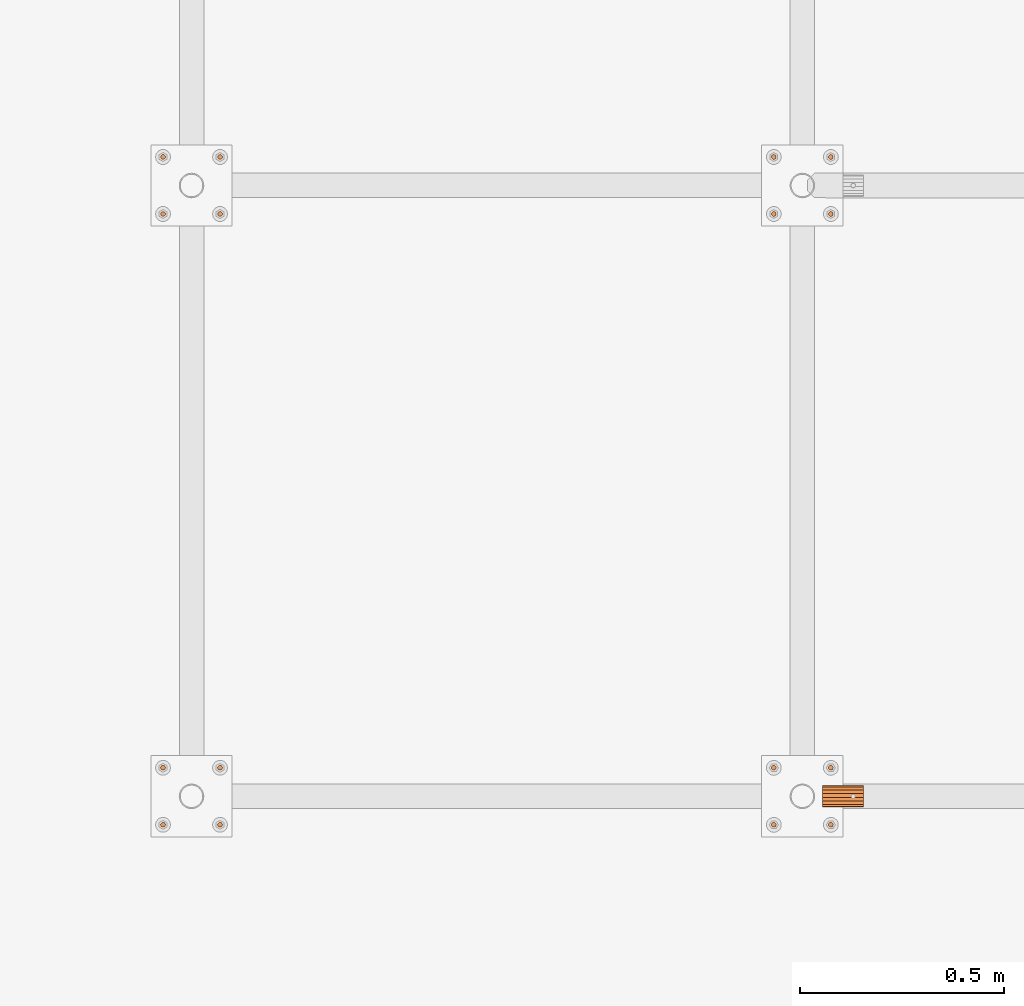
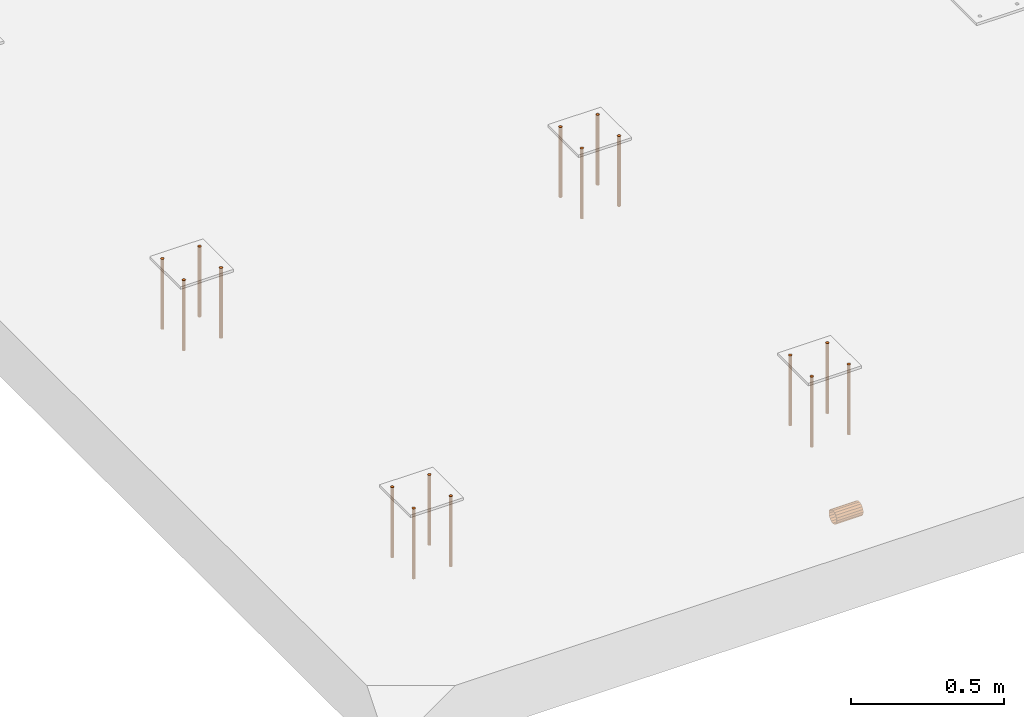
# One storey, part 13 of 30: 17 proxies.
"""IFC2X3 building model written with IfcOpenShell, lengths in millimetres."""

from ifc_helpers import new_model, entity, si_unit, converted_unit, origin_with_axes, place, context, project, spatial, faceted_brep, material, element, save


model = new_model("IFC2X3")

# Units and contexts
model_context = context("Model", 3, precision=1e-09, world=origin_with_axes())
ifc_project = project(units=[si_unit("LENGTHUNIT", "METRE", prefix="MILLI"), si_unit("AREAUNIT", "SQUARE_METRE"), si_unit("VOLUMEUNIT", "CUBIC_METRE"), converted_unit("PLANEANGLEUNIT", "DEGREE", entity("IfcPlaneAngleMeasure", 0.01745329), si_unit("PLANEANGLEUNIT", "RADIAN"), dimensions=[0, 0, 0, 0, 0, 0, 0])], contexts=[model_context])

# Site, building, storey
site_placement = place(None, origin_with_axes())
site = spatial("IfcSite", under=ifc_project, at=site_placement, Name="M?nsinger Stra?e, 81477 M?nchen", CompositionType="ELEMENT")
building_placement = place(site_placement, origin_with_axes())
building = spatial("IfcBuilding", under=site, at=building_placement, Name="Struktur 1", CompositionType="ELEMENT")
storey_placement = place(building_placement, origin_with_axes())
storey = spatial("IfcBuildingStorey", under=building, at=storey_placement, Name="Default Storey", CompositionType="ELEMENT", Elevation=0.0)

# Proxies
ifc_material_1 = material(Name="Kein")
proxy_1_placement = place(None, origin_with_axes())
element("IfcBuildingElementProxy", 1, at=proxy_1_placement, inside=storey, material=ifc_material_1, ObjectType="-", context=model_context, shape_type="Brep", body=[
    faceted_brep([(1476.315117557, 3055.2632594, 6475.0), (1476.315117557, 3055.2632594, 6755.0), (1473.315117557, 3056.067106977, 6755.0), (1473.315117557, 3056.067106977, 6475.0), (1479.315117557, 3056.067106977, 6475.0), (1479.315117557, 3056.067106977, 6755.0), (1479.315117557, 3066.459411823, 6475.0), (1481.51126998, 3064.2632594, 6475.0), (1482.315117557, 3061.2632594, 6475.0), (1481.51126998, 3058.2632594, 6475.0), (1471.118965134, 3058.2632594, 6475.0), (1470.315117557, 3061.2632594, 6475.0), (1471.118965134, 3064.2632594, 6475.0), (1473.315117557, 3066.459411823, 6475.0), (1476.315117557, 3067.2632594, 6475.0), (1473.315117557, 3066.459411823, 6755.0), (1471.118965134, 3064.2632594, 6755.0), (1470.315117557, 3061.2632594, 6755.0), (1471.118965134, 3058.2632594, 6755.0), (1481.51126998, 3058.2632594, 6755.0), (1482.315117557, 3061.2632594, 6755.0), (1481.51126998, 3064.2632594, 6755.0), (1479.315117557, 3066.459411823, 6755.0), (1476.315117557, 3067.2632594, 6755.0)], [[[0, 1, 2, 3]], [[1, 0, 4, 5]], [[6, 7, 8, 9, 4, 0, 3, 10, 11, 12, 13, 14]], [[15, 16, 17, 18, 2, 1, 5, 19, 20, 21, 22, 23]], [[3, 2, 18, 10]], [[5, 4, 9, 19]], [[17, 11, 10, 18]], [[16, 12, 11, 17]], [[19, 9, 8, 20]], [[13, 15, 23, 14]], [[12, 16, 15, 13]], [[14, 23, 22, 6]], [[20, 8, 7, 21]], [[6, 22, 21, 7]]]),
])
proxy_2_placement = place(None, origin_with_axes())
element("IfcBuildingElementProxy", 2, at=proxy_2_placement, inside=storey, material=ifc_material_1, ObjectType="-", context=model_context, shape_type="Brep", body=[
    faceted_brep([(1336.315117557, 3055.2632594, 6475.0), (1336.315117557, 3055.2632594, 6755.0), (1333.315117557, 3056.067106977, 6755.0), (1333.315117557, 3056.067106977, 6475.0), (1339.315117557, 3056.067106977, 6475.0), (1339.315117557, 3056.067106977, 6755.0), (1339.315117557, 3066.459411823, 6475.0), (1341.51126998, 3064.2632594, 6475.0), (1342.315117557, 3061.2632594, 6475.0), (1341.51126998, 3058.2632594, 6475.0), (1331.118965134, 3058.2632594, 6475.0), (1330.315117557, 3061.2632594, 6475.0), (1331.118965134, 3064.2632594, 6475.0), (1333.315117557, 3066.459411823, 6475.0), (1336.315117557, 3067.2632594, 6475.0), (1333.315117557, 3066.459411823, 6755.0), (1331.118965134, 3064.2632594, 6755.0), (1330.315117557, 3061.2632594, 6755.0), (1331.118965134, 3058.2632594, 6755.0), (1341.51126998, 3058.2632594, 6755.0), (1342.315117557, 3061.2632594, 6755.0), (1341.51126998, 3064.2632594, 6755.0), (1339.315117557, 3066.459411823, 6755.0), (1336.315117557, 3067.2632594, 6755.0)], [[[0, 1, 2, 3]], [[1, 0, 4, 5]], [[6, 7, 8, 9, 4, 0, 3, 10, 11, 12, 13, 14]], [[15, 16, 17, 18, 2, 1, 5, 19, 20, 21, 22, 23]], [[3, 2, 18, 10]], [[5, 4, 9, 19]], [[17, 11, 10, 18]], [[16, 12, 11, 17]], [[19, 9, 8, 20]], [[13, 15, 23, 14]], [[12, 16, 15, 13]], [[14, 23, 22, 6]], [[20, 8, 7, 21]], [[6, 22, 21, 7]]]),
])
proxy_3_placement = place(None, origin_with_axes())
element("IfcBuildingElementProxy", 3, at=proxy_3_placement, inside=storey, material=ifc_material_1, ObjectType="-", context=model_context, shape_type="Brep", body=[
    faceted_brep([(1476.315117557, 2915.2632594, 6475.0), (1476.315117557, 2915.2632594, 6755.0), (1473.315117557, 2916.067106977, 6755.0), (1473.315117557, 2916.067106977, 6475.0), (1479.315117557, 2916.067106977, 6475.0), (1479.315117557, 2916.067106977, 6755.0), (1479.315117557, 2926.459411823, 6475.0), (1481.51126998, 2924.2632594, 6475.0), (1482.315117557, 2921.2632594, 6475.0), (1481.51126998, 2918.2632594, 6475.0), (1471.118965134, 2918.2632594, 6475.0), (1470.315117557, 2921.2632594, 6475.0), (1471.118965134, 2924.2632594, 6475.0), (1473.315117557, 2926.459411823, 6475.0), (1476.315117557, 2927.2632594, 6475.0), (1473.315117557, 2926.459411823, 6755.0), (1471.118965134, 2924.2632594, 6755.0), (1470.315117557, 2921.2632594, 6755.0), (1471.118965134, 2918.2632594, 6755.0), (1481.51126998, 2918.2632594, 6755.0), (1482.315117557, 2921.2632594, 6755.0), (1481.51126998, 2924.2632594, 6755.0), (1479.315117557, 2926.459411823, 6755.0), (1476.315117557, 2927.2632594, 6755.0)], [[[0, 1, 2, 3]], [[1, 0, 4, 5]], [[6, 7, 8, 9, 4, 0, 3, 10, 11, 12, 13, 14]], [[15, 16, 17, 18, 2, 1, 5, 19, 20, 21, 22, 23]], [[3, 2, 18, 10]], [[5, 4, 9, 19]], [[17, 11, 10, 18]], [[16, 12, 11, 17]], [[19, 9, 8, 20]], [[13, 15, 23, 14]], [[12, 16, 15, 13]], [[14, 23, 22, 6]], [[20, 8, 7, 21]], [[6, 22, 21, 7]]]),
])
proxy_4_placement = place(None, origin_with_axes())
element("IfcBuildingElementProxy", 4, at=proxy_4_placement, inside=storey, material=ifc_material_1, ObjectType="-", context=model_context, shape_type="Brep", body=[
    faceted_brep([(1336.315117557, 2915.2632594, 6475.0), (1336.315117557, 2915.2632594, 6755.0), (1333.315117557, 2916.067106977, 6755.0), (1333.315117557, 2916.067106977, 6475.0), (1339.315117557, 2916.067106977, 6475.0), (1339.315117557, 2916.067106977, 6755.0), (1339.315117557, 2926.459411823, 6475.0), (1341.51126998, 2924.2632594, 6475.0), (1342.315117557, 2921.2632594, 6475.0), (1341.51126998, 2918.2632594, 6475.0), (1331.118965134, 2918.2632594, 6475.0), (1330.315117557, 2921.2632594, 6475.0), (1331.118965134, 2924.2632594, 6475.0), (1333.315117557, 2926.459411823, 6475.0), (1336.315117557, 2927.2632594, 6475.0), (1333.315117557, 2926.459411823, 6755.0), (1331.118965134, 2924.2632594, 6755.0), (1330.315117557, 2921.2632594, 6755.0), (1331.118965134, 2918.2632594, 6755.0), (1341.51126998, 2918.2632594, 6755.0), (1342.315117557, 2921.2632594, 6755.0), (1341.51126998, 2924.2632594, 6755.0), (1339.315117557, 2926.459411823, 6755.0), (1336.315117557, 2927.2632594, 6755.0)], [[[0, 1, 2, 3]], [[1, 0, 4, 5]], [[6, 7, 8, 9, 4, 0, 3, 10, 11, 12, 13, 14]], [[15, 16, 17, 18, 2, 1, 5, 19, 20, 21, 22, 23]], [[3, 2, 18, 10]], [[5, 4, 9, 19]], [[17, 11, 10, 18]], [[16, 12, 11, 17]], [[19, 9, 8, 20]], [[13, 15, 23, 14]], [[12, 16, 15, 13]], [[14, 23, 22, 6]], [[20, 8, 7, 21]], [[6, 22, 21, 7]]]),
])
proxy_5_placement = place(None, origin_with_axes())
element("IfcBuildingElementProxy", 5, at=proxy_5_placement, inside=storey, material=ifc_material_1, ObjectType="-", context=model_context, shape_type="Brep", body=[
    faceted_brep([(2976.315117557, 2915.2632594, 6755.0), (2976.315117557, 2915.2632594, 6475.0), (2979.315117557, 2916.067106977, 6475.0), (2979.315117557, 2916.067106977, 6755.0), (2973.315117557, 2916.067106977, 6755.0), (2973.315117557, 2916.067106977, 6475.0), (2971.118965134, 2924.2632594, 6475.0), (2973.315117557, 2926.459411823, 6475.0), (2976.315117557, 2927.2632594, 6475.0), (2979.315117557, 2926.459411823, 6475.0), (2981.51126998, 2924.2632594, 6475.0), (2982.315117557, 2921.2632594, 6475.0), (2981.51126998, 2918.2632594, 6475.0), (2971.118965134, 2918.2632594, 6475.0), (2970.315117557, 2921.2632594, 6475.0), (2981.51126998, 2924.2632594, 6755.0), (2979.315117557, 2926.459411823, 6755.0), (2976.315117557, 2927.2632594, 6755.0), (2973.315117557, 2926.459411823, 6755.0), (2971.118965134, 2924.2632594, 6755.0), (2970.315117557, 2921.2632594, 6755.0), (2971.118965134, 2918.2632594, 6755.0), (2981.51126998, 2918.2632594, 6755.0), (2982.315117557, 2921.2632594, 6755.0)], [[[0, 1, 2, 3]], [[1, 0, 4, 5]], [[6, 7, 8, 9, 10, 11, 12, 2, 1, 5, 13, 14]], [[15, 16, 17, 18, 19, 20, 21, 4, 0, 3, 22, 23]], [[3, 2, 12, 22]], [[5, 4, 21, 13]], [[11, 23, 22, 12]], [[10, 15, 23, 11]], [[13, 21, 20, 14]], [[16, 9, 8, 17]], [[15, 10, 9, 16]], [[17, 8, 7, 18]], [[14, 20, 19, 6]], [[18, 7, 6, 19]]]),
])
proxy_6_placement = place(None, origin_with_axes())
element("IfcBuildingElementProxy", 6, at=proxy_6_placement, inside=storey, material=ifc_material_1, ObjectType="-", context=model_context, shape_type="Brep", body=[
    faceted_brep([(2836.315117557, 2915.2632594, 6755.0), (2836.315117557, 2915.2632594, 6475.0), (2839.315117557, 2916.067106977, 6475.0), (2839.315117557, 2916.067106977, 6755.0), (2833.315117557, 2916.067106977, 6755.0), (2833.315117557, 2916.067106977, 6475.0), (2831.118965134, 2924.2632594, 6475.0), (2833.315117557, 2926.459411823, 6475.0), (2836.315117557, 2927.2632594, 6475.0), (2839.315117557, 2926.459411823, 6475.0), (2841.51126998, 2924.2632594, 6475.0), (2842.315117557, 2921.2632594, 6475.0), (2841.51126998, 2918.2632594, 6475.0), (2831.118965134, 2918.2632594, 6475.0), (2830.315117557, 2921.2632594, 6475.0), (2841.51126998, 2924.2632594, 6755.0), (2839.315117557, 2926.459411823, 6755.0), (2836.315117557, 2927.2632594, 6755.0), (2833.315117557, 2926.459411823, 6755.0), (2831.118965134, 2924.2632594, 6755.0), (2830.315117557, 2921.2632594, 6755.0), (2831.118965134, 2918.2632594, 6755.0), (2841.51126998, 2918.2632594, 6755.0), (2842.315117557, 2921.2632594, 6755.0)], [[[0, 1, 2, 3]], [[1, 0, 4, 5]], [[6, 7, 8, 9, 10, 11, 12, 2, 1, 5, 13, 14]], [[15, 16, 17, 18, 19, 20, 21, 4, 0, 3, 22, 23]], [[3, 2, 12, 22]], [[5, 4, 21, 13]], [[11, 23, 22, 12]], [[10, 15, 23, 11]], [[13, 21, 20, 14]], [[16, 9, 8, 17]], [[15, 10, 9, 16]], [[17, 8, 7, 18]], [[14, 20, 19, 6]], [[18, 7, 6, 19]]]),
])
proxy_7_placement = place(None, origin_with_axes())
element("IfcBuildingElementProxy", 7, at=proxy_7_placement, inside=storey, material=ifc_material_1, ObjectType="-", context=model_context, shape_type="Brep", body=[
    faceted_brep([(2976.315117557, 3055.2632594, 6755.0), (2976.315117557, 3055.2632594, 6475.0), (2979.315117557, 3056.067106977, 6475.0), (2979.315117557, 3056.067106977, 6755.0), (2973.315117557, 3056.067106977, 6755.0), (2973.315117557, 3056.067106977, 6475.0), (2971.118965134, 3064.2632594, 6475.0), (2973.315117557, 3066.459411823, 6475.0), (2976.315117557, 3067.2632594, 6475.0), (2979.315117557, 3066.459411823, 6475.0), (2981.51126998, 3064.2632594, 6475.0), (2982.315117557, 3061.2632594, 6475.0), (2981.51126998, 3058.2632594, 6475.0), (2971.118965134, 3058.2632594, 6475.0), (2970.315117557, 3061.2632594, 6475.0), (2981.51126998, 3064.2632594, 6755.0), (2979.315117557, 3066.459411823, 6755.0), (2976.315117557, 3067.2632594, 6755.0), (2973.315117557, 3066.459411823, 6755.0), (2971.118965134, 3064.2632594, 6755.0), (2970.315117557, 3061.2632594, 6755.0), (2971.118965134, 3058.2632594, 6755.0), (2981.51126998, 3058.2632594, 6755.0), (2982.315117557, 3061.2632594, 6755.0)], [[[0, 1, 2, 3]], [[1, 0, 4, 5]], [[6, 7, 8, 9, 10, 11, 12, 2, 1, 5, 13, 14]], [[15, 16, 17, 18, 19, 20, 21, 4, 0, 3, 22, 23]], [[3, 2, 12, 22]], [[5, 4, 21, 13]], [[11, 23, 22, 12]], [[10, 15, 23, 11]], [[13, 21, 20, 14]], [[16, 9, 8, 17]], [[15, 10, 9, 16]], [[17, 8, 7, 18]], [[14, 20, 19, 6]], [[18, 7, 6, 19]]]),
])
proxy_8_placement = place(None, origin_with_axes())
element("IfcBuildingElementProxy", 8, at=proxy_8_placement, inside=storey, material=ifc_material_1, ObjectType="-", context=model_context, shape_type="Brep", body=[
    faceted_brep([(2836.315117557, 3055.2632594, 6755.0), (2836.315117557, 3055.2632594, 6475.0), (2839.315117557, 3056.067106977, 6475.0), (2839.315117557, 3056.067106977, 6755.0), (2833.315117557, 3056.067106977, 6755.0), (2833.315117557, 3056.067106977, 6475.0), (2831.118965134, 3064.2632594, 6475.0), (2833.315117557, 3066.459411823, 6475.0), (2836.315117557, 3067.2632594, 6475.0), (2839.315117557, 3066.459411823, 6475.0), (2841.51126998, 3064.2632594, 6475.0), (2842.315117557, 3061.2632594, 6475.0), (2841.51126998, 3058.2632594, 6475.0), (2831.118965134, 3058.2632594, 6475.0), (2830.315117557, 3061.2632594, 6475.0), (2841.51126998, 3064.2632594, 6755.0), (2839.315117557, 3066.459411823, 6755.0), (2836.315117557, 3067.2632594, 6755.0), (2833.315117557, 3066.459411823, 6755.0), (2831.118965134, 3064.2632594, 6755.0), (2830.315117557, 3061.2632594, 6755.0), (2831.118965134, 3058.2632594, 6755.0), (2841.51126998, 3058.2632594, 6755.0), (2842.315117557, 3061.2632594, 6755.0)], [[[0, 1, 2, 3]], [[1, 0, 4, 5]], [[6, 7, 8, 9, 10, 11, 12, 2, 1, 5, 13, 14]], [[15, 16, 17, 18, 19, 20, 21, 4, 0, 3, 22, 23]], [[3, 2, 12, 22]], [[5, 4, 21, 13]], [[11, 23, 22, 12]], [[10, 15, 23, 11]], [[13, 21, 20, 14]], [[16, 9, 8, 17]], [[15, 10, 9, 16]], [[17, 8, 7, 18]], [[14, 20, 19, 6]], [[18, 7, 6, 19]]]),
])
proxy_9_placement = place(None, origin_with_axes())
element("IfcBuildingElementProxy", 9, at=proxy_9_placement, inside=storey, material=ifc_material_1, ObjectType="-", context=model_context, shape_type="Brep", body=[
    faceted_brep([(1336.315117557, 1427.2632594, 6755.0), (1336.315117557, 1427.2632594, 6475.0), (1333.315117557, 1426.459411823, 6475.0), (1333.315117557, 1426.459411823, 6755.0), (1339.315117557, 1426.459411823, 6755.0), (1339.315117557, 1426.459411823, 6475.0), (1341.51126998, 1418.2632594, 6475.0), (1339.315117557, 1416.067106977, 6475.0), (1336.315117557, 1415.2632594, 6475.0), (1333.315117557, 1416.067106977, 6475.0), (1331.118965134, 1418.2632594, 6475.0), (1330.315117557, 1421.2632594, 6475.0), (1331.118965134, 1424.2632594, 6475.0), (1341.51126998, 1424.2632594, 6475.0), (1342.315117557, 1421.2632594, 6475.0), (1331.118965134, 1418.2632594, 6755.0), (1333.315117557, 1416.067106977, 6755.0), (1336.315117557, 1415.2632594, 6755.0), (1339.315117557, 1416.067106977, 6755.0), (1341.51126998, 1418.2632594, 6755.0), (1342.315117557, 1421.2632594, 6755.0), (1341.51126998, 1424.2632594, 6755.0), (1331.118965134, 1424.2632594, 6755.0), (1330.315117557, 1421.2632594, 6755.0)], [[[0, 1, 2, 3]], [[1, 0, 4, 5]], [[6, 7, 8, 9, 10, 11, 12, 2, 1, 5, 13, 14]], [[15, 16, 17, 18, 19, 20, 21, 4, 0, 3, 22, 23]], [[3, 2, 12, 22]], [[5, 4, 21, 13]], [[11, 23, 22, 12]], [[10, 15, 23, 11]], [[13, 21, 20, 14]], [[16, 9, 8, 17]], [[15, 10, 9, 16]], [[17, 8, 7, 18]], [[14, 20, 19, 6]], [[18, 7, 6, 19]]]),
])
proxy_10_placement = place(None, origin_with_axes())
element("IfcBuildingElementProxy", 10, at=proxy_10_placement, inside=storey, material=ifc_material_1, ObjectType="-", context=model_context, shape_type="Brep", body=[
    faceted_brep([(1476.315117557, 1427.2632594, 6755.0), (1476.315117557, 1427.2632594, 6475.0), (1473.315117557, 1426.459411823, 6475.0), (1473.315117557, 1426.459411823, 6755.0), (1479.315117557, 1426.459411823, 6755.0), (1479.315117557, 1426.459411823, 6475.0), (1481.51126998, 1418.2632594, 6475.0), (1479.315117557, 1416.067106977, 6475.0), (1476.315117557, 1415.2632594, 6475.0), (1473.315117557, 1416.067106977, 6475.0), (1471.118965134, 1418.2632594, 6475.0), (1470.315117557, 1421.2632594, 6475.0), (1471.118965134, 1424.2632594, 6475.0), (1481.51126998, 1424.2632594, 6475.0), (1482.315117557, 1421.2632594, 6475.0), (1471.118965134, 1418.2632594, 6755.0), (1473.315117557, 1416.067106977, 6755.0), (1476.315117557, 1415.2632594, 6755.0), (1479.315117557, 1416.067106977, 6755.0), (1481.51126998, 1418.2632594, 6755.0), (1482.315117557, 1421.2632594, 6755.0), (1481.51126998, 1424.2632594, 6755.0), (1471.118965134, 1424.2632594, 6755.0), (1470.315117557, 1421.2632594, 6755.0)], [[[0, 1, 2, 3]], [[1, 0, 4, 5]], [[6, 7, 8, 9, 10, 11, 12, 2, 1, 5, 13, 14]], [[15, 16, 17, 18, 19, 20, 21, 4, 0, 3, 22, 23]], [[3, 2, 12, 22]], [[5, 4, 21, 13]], [[11, 23, 22, 12]], [[10, 15, 23, 11]], [[13, 21, 20, 14]], [[16, 9, 8, 17]], [[15, 10, 9, 16]], [[17, 8, 7, 18]], [[14, 20, 19, 6]], [[18, 7, 6, 19]]]),
])
proxy_11_placement = place(None, origin_with_axes())
element("IfcBuildingElementProxy", 11, at=proxy_11_placement, inside=storey, material=ifc_material_1, ObjectType="-", context=model_context, shape_type="Brep", body=[
    faceted_brep([(1336.315117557, 1567.2632594, 6755.0), (1336.315117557, 1567.2632594, 6475.0), (1333.315117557, 1566.459411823, 6475.0), (1333.315117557, 1566.459411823, 6755.0), (1339.315117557, 1566.459411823, 6755.0), (1339.315117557, 1566.459411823, 6475.0), (1341.51126998, 1558.2632594, 6475.0), (1339.315117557, 1556.067106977, 6475.0), (1336.315117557, 1555.2632594, 6475.0), (1333.315117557, 1556.067106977, 6475.0), (1331.118965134, 1558.2632594, 6475.0), (1330.315117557, 1561.2632594, 6475.0), (1331.118965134, 1564.2632594, 6475.0), (1341.51126998, 1564.2632594, 6475.0), (1342.315117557, 1561.2632594, 6475.0), (1331.118965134, 1558.2632594, 6755.0), (1333.315117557, 1556.067106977, 6755.0), (1336.315117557, 1555.2632594, 6755.0), (1339.315117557, 1556.067106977, 6755.0), (1341.51126998, 1558.2632594, 6755.0), (1342.315117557, 1561.2632594, 6755.0), (1341.51126998, 1564.2632594, 6755.0), (1331.118965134, 1564.2632594, 6755.0), (1330.315117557, 1561.2632594, 6755.0)], [[[0, 1, 2, 3]], [[1, 0, 4, 5]], [[6, 7, 8, 9, 10, 11, 12, 2, 1, 5, 13, 14]], [[15, 16, 17, 18, 19, 20, 21, 4, 0, 3, 22, 23]], [[3, 2, 12, 22]], [[5, 4, 21, 13]], [[11, 23, 22, 12]], [[10, 15, 23, 11]], [[13, 21, 20, 14]], [[16, 9, 8, 17]], [[15, 10, 9, 16]], [[17, 8, 7, 18]], [[14, 20, 19, 6]], [[18, 7, 6, 19]]]),
])
proxy_12_placement = place(None, origin_with_axes())
element("IfcBuildingElementProxy", 12, at=proxy_12_placement, inside=storey, material=ifc_material_1, ObjectType="-", context=model_context, shape_type="Brep", body=[
    faceted_brep([(1476.315117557, 1567.2632594, 6755.0), (1476.315117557, 1567.2632594, 6475.0), (1473.315117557, 1566.459411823, 6475.0), (1473.315117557, 1566.459411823, 6755.0), (1479.315117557, 1566.459411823, 6755.0), (1479.315117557, 1566.459411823, 6475.0), (1481.51126998, 1558.2632594, 6475.0), (1479.315117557, 1556.067106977, 6475.0), (1476.315117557, 1555.2632594, 6475.0), (1473.315117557, 1556.067106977, 6475.0), (1471.118965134, 1558.2632594, 6475.0), (1470.315117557, 1561.2632594, 6475.0), (1471.118965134, 1564.2632594, 6475.0), (1481.51126998, 1564.2632594, 6475.0), (1482.315117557, 1561.2632594, 6475.0), (1471.118965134, 1558.2632594, 6755.0), (1473.315117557, 1556.067106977, 6755.0), (1476.315117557, 1555.2632594, 6755.0), (1479.315117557, 1556.067106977, 6755.0), (1481.51126998, 1558.2632594, 6755.0), (1482.315117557, 1561.2632594, 6755.0), (1481.51126998, 1564.2632594, 6755.0), (1471.118965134, 1564.2632594, 6755.0), (1470.315117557, 1561.2632594, 6755.0)], [[[0, 1, 2, 3]], [[1, 0, 4, 5]], [[6, 7, 8, 9, 10, 11, 12, 2, 1, 5, 13, 14]], [[15, 16, 17, 18, 19, 20, 21, 4, 0, 3, 22, 23]], [[3, 2, 12, 22]], [[5, 4, 21, 13]], [[11, 23, 22, 12]], [[10, 15, 23, 11]], [[13, 21, 20, 14]], [[16, 9, 8, 17]], [[15, 10, 9, 16]], [[17, 8, 7, 18]], [[14, 20, 19, 6]], [[18, 7, 6, 19]]]),
])
proxy_13_placement = place(None, origin_with_axes())
element("IfcBuildingElementProxy", 13, at=proxy_13_placement, inside=storey, material=ifc_material_1, ObjectType="-", context=model_context, shape_type="Brep", body=[
    faceted_brep([(2842.315117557, 1421.2632594, 6475.0), (2842.315117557, 1421.2632594, 6755.0), (2841.51126998, 1418.2632594, 6755.0), (2841.51126998, 1418.2632594, 6475.0), (2841.51126998, 1424.2632594, 6475.0), (2841.51126998, 1424.2632594, 6755.0), (2831.118965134, 1424.2632594, 6475.0), (2833.315117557, 1426.459411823, 6475.0), (2836.315117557, 1427.2632594, 6475.0), (2839.315117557, 1426.459411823, 6475.0), (2839.315117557, 1416.067106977, 6475.0), (2836.315117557, 1415.2632594, 6475.0), (2833.315117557, 1416.067106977, 6475.0), (2831.118965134, 1418.2632594, 6475.0), (2830.315117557, 1421.2632594, 6475.0), (2831.118965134, 1418.2632594, 6755.0), (2833.315117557, 1416.067106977, 6755.0), (2836.315117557, 1415.2632594, 6755.0), (2839.315117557, 1416.067106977, 6755.0), (2839.315117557, 1426.459411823, 6755.0), (2836.315117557, 1427.2632594, 6755.0), (2833.315117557, 1426.459411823, 6755.0), (2831.118965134, 1424.2632594, 6755.0), (2830.315117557, 1421.2632594, 6755.0)], [[[0, 1, 2, 3]], [[1, 0, 4, 5]], [[6, 7, 8, 9, 4, 0, 3, 10, 11, 12, 13, 14]], [[15, 16, 17, 18, 2, 1, 5, 19, 20, 21, 22, 23]], [[3, 2, 18, 10]], [[5, 4, 9, 19]], [[17, 11, 10, 18]], [[16, 12, 11, 17]], [[19, 9, 8, 20]], [[13, 15, 23, 14]], [[12, 16, 15, 13]], [[14, 23, 22, 6]], [[20, 8, 7, 21]], [[6, 22, 21, 7]]]),
])
proxy_14_placement = place(None, origin_with_axes())
element("IfcBuildingElementProxy", 14, at=proxy_14_placement, inside=storey, material=ifc_material_1, ObjectType="-", context=model_context, shape_type="Brep", body=[
    faceted_brep([(2842.315117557, 1561.2632594, 6475.0), (2842.315117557, 1561.2632594, 6755.0), (2841.51126998, 1558.2632594, 6755.0), (2841.51126998, 1558.2632594, 6475.0), (2841.51126998, 1564.2632594, 6475.0), (2841.51126998, 1564.2632594, 6755.0), (2831.118965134, 1564.2632594, 6475.0), (2833.315117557, 1566.459411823, 6475.0), (2836.315117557, 1567.2632594, 6475.0), (2839.315117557, 1566.459411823, 6475.0), (2839.315117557, 1556.067106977, 6475.0), (2836.315117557, 1555.2632594, 6475.0), (2833.315117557, 1556.067106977, 6475.0), (2831.118965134, 1558.2632594, 6475.0), (2830.315117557, 1561.2632594, 6475.0), (2831.118965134, 1558.2632594, 6755.0), (2833.315117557, 1556.067106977, 6755.0), (2836.315117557, 1555.2632594, 6755.0), (2839.315117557, 1556.067106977, 6755.0), (2839.315117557, 1566.459411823, 6755.0), (2836.315117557, 1567.2632594, 6755.0), (2833.315117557, 1566.459411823, 6755.0), (2831.118965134, 1564.2632594, 6755.0), (2830.315117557, 1561.2632594, 6755.0)], [[[0, 1, 2, 3]], [[1, 0, 4, 5]], [[6, 7, 8, 9, 4, 0, 3, 10, 11, 12, 13, 14]], [[15, 16, 17, 18, 2, 1, 5, 19, 20, 21, 22, 23]], [[3, 2, 18, 10]], [[5, 4, 9, 19]], [[17, 11, 10, 18]], [[16, 12, 11, 17]], [[19, 9, 8, 20]], [[13, 15, 23, 14]], [[12, 16, 15, 13]], [[14, 23, 22, 6]], [[20, 8, 7, 21]], [[6, 22, 21, 7]]]),
])
proxy_15_placement = place(None, origin_with_axes())
element("IfcBuildingElementProxy", 15, at=proxy_15_placement, inside=storey, material=ifc_material_1, ObjectType="-", context=model_context, shape_type="Brep", body=[
    faceted_brep([(2982.315117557, 1421.2632594, 6475.0), (2982.315117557, 1421.2632594, 6755.0), (2981.51126998, 1418.2632594, 6755.0), (2981.51126998, 1418.2632594, 6475.0), (2981.51126998, 1424.2632594, 6475.0), (2981.51126998, 1424.2632594, 6755.0), (2971.118965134, 1424.2632594, 6475.0), (2973.315117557, 1426.459411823, 6475.0), (2976.315117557, 1427.2632594, 6475.0), (2979.315117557, 1426.459411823, 6475.0), (2979.315117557, 1416.067106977, 6475.0), (2976.315117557, 1415.2632594, 6475.0), (2973.315117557, 1416.067106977, 6475.0), (2971.118965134, 1418.2632594, 6475.0), (2970.315117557, 1421.2632594, 6475.0), (2971.118965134, 1418.2632594, 6755.0), (2973.315117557, 1416.067106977, 6755.0), (2976.315117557, 1415.2632594, 6755.0), (2979.315117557, 1416.067106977, 6755.0), (2979.315117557, 1426.459411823, 6755.0), (2976.315117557, 1427.2632594, 6755.0), (2973.315117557, 1426.459411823, 6755.0), (2971.118965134, 1424.2632594, 6755.0), (2970.315117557, 1421.2632594, 6755.0)], [[[0, 1, 2, 3]], [[1, 0, 4, 5]], [[6, 7, 8, 9, 4, 0, 3, 10, 11, 12, 13, 14]], [[15, 16, 17, 18, 2, 1, 5, 19, 20, 21, 22, 23]], [[3, 2, 18, 10]], [[5, 4, 9, 19]], [[17, 11, 10, 18]], [[16, 12, 11, 17]], [[19, 9, 8, 20]], [[13, 15, 23, 14]], [[12, 16, 15, 13]], [[14, 23, 22, 6]], [[20, 8, 7, 21]], [[6, 22, 21, 7]]]),
])
proxy_16_placement = place(None, origin_with_axes())
element("IfcBuildingElementProxy", 16, at=proxy_16_placement, inside=storey, material=ifc_material_1, ObjectType="-", context=model_context, shape_type="Brep", body=[
    faceted_brep([(2982.315117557, 1561.2632594, 6475.0), (2982.315117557, 1561.2632594, 6755.0), (2981.51126998, 1558.2632594, 6755.0), (2981.51126998, 1558.2632594, 6475.0), (2981.51126998, 1564.2632594, 6475.0), (2981.51126998, 1564.2632594, 6755.0), (2971.118965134, 1564.2632594, 6475.0), (2973.315117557, 1566.459411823, 6475.0), (2976.315117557, 1567.2632594, 6475.0), (2979.315117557, 1566.459411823, 6475.0), (2979.315117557, 1556.067106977, 6475.0), (2976.315117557, 1555.2632594, 6475.0), (2973.315117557, 1556.067106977, 6475.0), (2971.118965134, 1558.2632594, 6475.0), (2970.315117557, 1561.2632594, 6475.0), (2971.118965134, 1558.2632594, 6755.0), (2973.315117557, 1556.067106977, 6755.0), (2976.315117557, 1555.2632594, 6755.0), (2979.315117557, 1556.067106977, 6755.0), (2979.315117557, 1566.459411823, 6755.0), (2976.315117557, 1567.2632594, 6755.0), (2973.315117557, 1566.459411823, 6755.0), (2971.118965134, 1564.2632594, 6755.0), (2970.315117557, 1561.2632594, 6755.0)], [[[0, 1, 2, 3]], [[1, 0, 4, 5]], [[6, 7, 8, 9, 4, 0, 3, 10, 11, 12, 13, 14]], [[15, 16, 17, 18, 2, 1, 5, 19, 20, 21, 22, 23]], [[3, 2, 18, 10]], [[5, 4, 9, 19]], [[17, 11, 10, 18]], [[16, 12, 11, 17]], [[19, 9, 8, 20]], [[13, 15, 23, 14]], [[12, 16, 15, 13]], [[14, 23, 22, 6]], [[20, 8, 7, 21]], [[6, 22, 21, 7]]]),
])
ifc_material_2 = material(Name="S235JR")
proxy_17_placement = place(None, origin_with_axes())
element("IfcBuildingElementProxy", 17, at=proxy_17_placement, inside=storey, material=ifc_material_2, ObjectType="-", context=model_context, shape_type="Brep", body=[
    faceted_brep([(3056.315117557, 1514.006567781, 6095.917939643), (3056.315117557, 1517.557789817, 6105.084700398), (3056.315117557, 1517.557789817, 6114.915299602), (3056.315117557, 1514.006567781, 6124.082060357), (3056.315117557, 1507.383735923, 6131.34696083), (3056.315117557, 1498.583744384, 6135.728835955), (3056.315117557, 1488.795080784, 6136.635889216), (3056.315117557, 1479.339758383, 6133.945618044), (3056.315117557, 1471.494770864, 6128.021358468), (3056.315117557, 1466.319627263, 6119.663214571), (3056.315117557, 1464.5132594, 6110.0), (3056.315117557, 1466.319627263, 6100.336785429), (3056.315117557, 1471.494770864, 6091.978641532), (3056.315117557, 1479.339758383, 6086.054381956), (3056.315117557, 1488.795080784, 6083.364110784), (3056.315117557, 1498.583744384, 6084.271164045), (3056.315117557, 1507.383735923, 6088.65303917), (3056.315117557, 1516.2632594, 6110.0), (3056.315117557, 1514.360247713, 6100.432914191), (3056.315117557, 1508.94092893, 6092.32233047), (3056.315117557, 1500.830345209, 6086.903011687), (3056.315117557, 1491.2632594, 6085.0), (3056.315117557, 1481.696173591, 6086.903011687), (3056.315117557, 1473.58558987, 6092.32233047), (3056.315117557, 1468.166271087, 6100.432914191), (3056.315117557, 1466.2632594, 6110.0), (3056.315117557, 1468.166271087, 6119.567085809), (3056.315117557, 1473.58558987, 6127.67766953), (3056.315117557, 1481.696173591, 6133.096988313), (3056.315117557, 1491.2632594, 6135.0), (3056.315117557, 1500.830345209, 6133.096988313), (3056.315117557, 1508.94092893, 6127.67766953), (3056.315117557, 1514.360247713, 6119.567085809), (2956.315117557, 1516.2632594, 6110.0), (2956.315117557, 1514.360247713, 6119.567085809), (2956.315117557, 1517.557789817, 6105.084700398), (2956.315117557, 1517.557789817, 6114.915299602), (2956.315117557, 1514.360247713, 6100.432914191), (2956.315117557, 1514.006567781, 6095.917939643), (2956.315117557, 1507.383735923, 6088.65303917), (2956.315117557, 1498.583744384, 6084.271164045), (2956.315117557, 1488.795080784, 6083.364110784), (2956.315117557, 1479.339758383, 6086.054381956), (2956.315117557, 1471.494770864, 6091.978641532), (2956.315117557, 1466.319627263, 6100.336785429), (2956.315117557, 1464.5132594, 6110.0), (2956.315117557, 1466.319627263, 6119.663214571), (2956.315117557, 1471.494770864, 6128.021358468), (2956.315117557, 1479.339758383, 6133.945618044), (2956.315117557, 1488.795080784, 6136.635889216), (2956.315117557, 1498.583744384, 6135.728835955), (2956.315117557, 1507.383735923, 6131.34696083), (2956.315117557, 1514.006567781, 6124.082060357), (2956.315117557, 1508.94092893, 6092.32233047), (2956.315117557, 1508.94092893, 6127.67766953), (2956.315117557, 1500.830345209, 6133.096988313), (2956.315117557, 1491.2632594, 6135.0), (2956.315117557, 1481.696173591, 6133.096988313), (2956.315117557, 1473.58558987, 6127.67766953), (2956.315117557, 1468.166271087, 6119.567085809), (2956.315117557, 1466.2632594, 6110.0), (2956.315117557, 1468.166271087, 6100.432914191), (2956.315117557, 1473.58558987, 6092.32233047), (2956.315117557, 1481.696173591, 6086.903011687), (2956.315117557, 1491.2632594, 6085.0), (2956.315117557, 1500.830345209, 6086.903011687)], [[[0, 1, 2, 3, 4, 5, 6, 7, 8, 9, 10, 11, 12, 13, 14, 15, 16], [17, 18, 19, 20, 21, 22, 23, 24, 25, 26, 27, 28, 29, 30, 31, 32]], [[33, 17, 32, 34]], [[2, 1, 35, 36]], [[17, 33, 37, 18]], [[35, 38, 39, 40, 41, 42, 43, 44, 45, 46, 47, 48, 49, 50, 51, 52, 36], [53, 37, 33, 34, 54, 55, 56, 57, 58, 59, 60, 61, 62, 63, 64, 65]], [[36, 52, 3, 2]], [[1, 0, 38, 35]], [[34, 32, 31, 54]], [[18, 37, 53, 19]], [[52, 51, 4, 3]], [[0, 16, 39, 38]], [[54, 31, 30, 55]], [[19, 53, 65, 20]], [[51, 50, 5, 4]], [[16, 15, 40, 39]], [[55, 30, 29, 56]], [[20, 65, 64, 21]], [[50, 49, 6, 5]], [[15, 14, 41, 40]], [[56, 29, 28, 57]], [[21, 64, 63, 22]], [[49, 48, 7, 6]], [[14, 13, 42, 41]], [[57, 28, 27, 58]], [[22, 63, 62, 23]], [[48, 47, 8, 7]], [[13, 12, 43, 42]], [[58, 27, 26, 59]], [[23, 62, 61, 24]], [[47, 46, 9, 8]], [[12, 11, 44, 43]], [[59, 26, 25, 60]], [[24, 61, 60, 25]], [[46, 45, 10, 9]], [[11, 10, 45, 44]]]),
])

save(model, "model.ifc")
